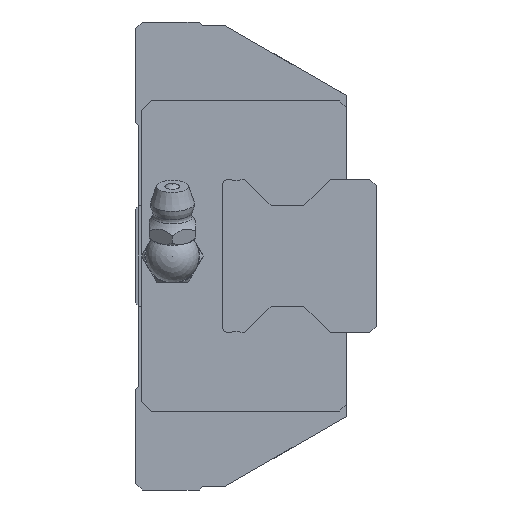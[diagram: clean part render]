
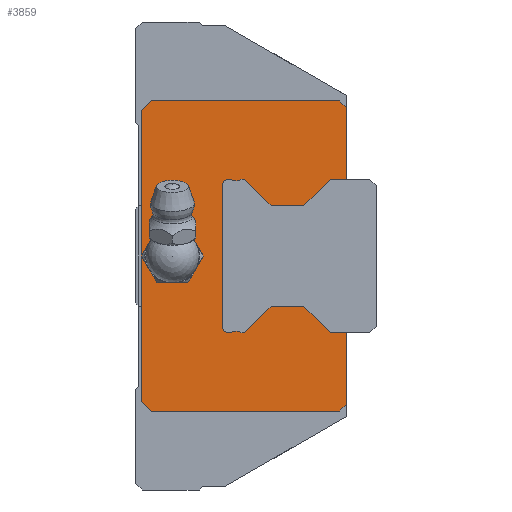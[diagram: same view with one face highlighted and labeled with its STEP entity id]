
A CAD part, left-side view. The second image highlights one B-rep face of the part: STEP entity #3859.
In plain terms, the highlighted planar face has unit normal (-1, 0, 0).
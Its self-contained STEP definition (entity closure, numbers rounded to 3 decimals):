
#183=CIRCLE('',#4177,3.);
#184=CIRCLE('',#4178,1.);
#185=CIRCLE('',#4179,1.);
#616=ORIENTED_EDGE('',*,*,#1542,.T.);
#617=ORIENTED_EDGE('',*,*,#1543,.T.);
#618=ORIENTED_EDGE('',*,*,#1533,.F.);
#619=ORIENTED_EDGE('',*,*,#1497,.F.);
#620=ORIENTED_EDGE('',*,*,#1493,.F.);
#621=ORIENTED_EDGE('',*,*,#1485,.F.);
#622=ORIENTED_EDGE('',*,*,#1520,.F.);
#623=ORIENTED_EDGE('',*,*,#1472,.F.);
#624=ORIENTED_EDGE('',*,*,#1507,.F.);
#625=ORIENTED_EDGE('',*,*,#1504,.F.);
#626=ORIENTED_EDGE('',*,*,#1535,.F.);
#627=ORIENTED_EDGE('',*,*,#1544,.T.);
#628=ORIENTED_EDGE('',*,*,#1545,.T.);
#629=ORIENTED_EDGE('',*,*,#1546,.T.);
#630=ORIENTED_EDGE('',*,*,#1547,.T.);
#631=ORIENTED_EDGE('',*,*,#1548,.T.);
#632=ORIENTED_EDGE('',*,*,#1549,.T.);
#633=ORIENTED_EDGE('',*,*,#1550,.T.);
#634=ORIENTED_EDGE('',*,*,#1551,.T.);
#635=ORIENTED_EDGE('',*,*,#1552,.T.);
#636=ORIENTED_EDGE('',*,*,#1553,.T.);
#637=ORIENTED_EDGE('',*,*,#1554,.T.);
#638=ORIENTED_EDGE('',*,*,#1555,.T.);
#639=ORIENTED_EDGE('',*,*,#1556,.T.);
#640=ORIENTED_EDGE('',*,*,#1557,.T.);
#641=ORIENTED_EDGE('',*,*,#1558,.T.);
#642=ORIENTED_EDGE('',*,*,#1559,.T.);
#1472=EDGE_CURVE('',#1967,#1968,#2333,.T.);
#1485=EDGE_CURVE('',#1979,#1980,#2346,.T.);
#1493=EDGE_CURVE('',#1980,#1986,#2353,.T.);
#1497=EDGE_CURVE('',#1986,#1988,#2357,.T.);
#1504=EDGE_CURVE('',#1993,#1994,#2364,.T.);
#1507=EDGE_CURVE('',#1994,#1967,#2367,.T.);
#1520=EDGE_CURVE('',#1968,#1979,#2375,.T.);
#1533=EDGE_CURVE('',#1988,#2005,#2386,.T.);
#1535=EDGE_CURVE('',#2012,#1993,#2388,.T.);
#1542=EDGE_CURVE('',#2018,#2018,#183,.T.);
#1543=EDGE_CURVE('',#2019,#2005,#2393,.T.);
#1544=EDGE_CURVE('',#2012,#2020,#2394,.T.);
#1545=EDGE_CURVE('',#2020,#2021,#2395,.T.);
#1546=EDGE_CURVE('',#2021,#2022,#2396,.T.);
#1547=EDGE_CURVE('',#2022,#2023,#2397,.T.);
#1548=EDGE_CURVE('',#2023,#2024,#2398,.T.);
#1549=EDGE_CURVE('',#2024,#2025,#2399,.T.);
#1550=EDGE_CURVE('',#2025,#2026,#2400,.T.);
#1551=EDGE_CURVE('',#2026,#2027,#184,.T.);
#1552=EDGE_CURVE('',#2027,#2028,#2401,.T.);
#1553=EDGE_CURVE('',#2028,#2029,#185,.T.);
#1554=EDGE_CURVE('',#2029,#2030,#2402,.T.);
#1555=EDGE_CURVE('',#2030,#2031,#2403,.T.);
#1556=EDGE_CURVE('',#2031,#2032,#2404,.T.);
#1557=EDGE_CURVE('',#2032,#2033,#2405,.T.);
#1558=EDGE_CURVE('',#2033,#2034,#2406,.T.);
#1559=EDGE_CURVE('',#2034,#2019,#2407,.T.);
#1967=VERTEX_POINT('',#5885);
#1968=VERTEX_POINT('',#5887);
#1979=VERTEX_POINT('',#5911);
#1980=VERTEX_POINT('',#5913);
#1986=VERTEX_POINT('',#5929);
#1988=VERTEX_POINT('',#5936);
#1993=VERTEX_POINT('',#5948);
#1994=VERTEX_POINT('',#5950);
#2005=VERTEX_POINT('',#5990);
#2012=VERTEX_POINT('',#6008);
#2018=VERTEX_POINT('',#6023);
#2019=VERTEX_POINT('',#6025);
#2020=VERTEX_POINT('',#6027);
#2021=VERTEX_POINT('',#6029);
#2022=VERTEX_POINT('',#6031);
#2023=VERTEX_POINT('',#6033);
#2024=VERTEX_POINT('',#6035);
#2025=VERTEX_POINT('',#6037);
#2026=VERTEX_POINT('',#6039);
#2027=VERTEX_POINT('',#6041);
#2028=VERTEX_POINT('',#6043);
#2029=VERTEX_POINT('',#6045);
#2030=VERTEX_POINT('',#6047);
#2031=VERTEX_POINT('',#6049);
#2032=VERTEX_POINT('',#6051);
#2033=VERTEX_POINT('',#6053);
#2034=VERTEX_POINT('',#6055);
#2333=LINE('',#5886,#2717);
#2346=LINE('',#5912,#2730);
#2353=LINE('',#5928,#2737);
#2357=LINE('',#5935,#2741);
#2364=LINE('',#5949,#2748);
#2367=LINE('',#5954,#2751);
#2375=LINE('',#5980,#2759);
#2386=LINE('',#6005,#2770);
#2388=LINE('',#6010,#2772);
#2393=LINE('',#6024,#2777);
#2394=LINE('',#6026,#2778);
#2395=LINE('',#6028,#2779);
#2396=LINE('',#6030,#2780);
#2397=LINE('',#6032,#2781);
#2398=LINE('',#6034,#2782);
#2399=LINE('',#6036,#2783);
#2400=LINE('',#6038,#2784);
#2401=LINE('',#6042,#2785);
#2402=LINE('',#6046,#2786);
#2403=LINE('',#6048,#2787);
#2404=LINE('',#6050,#2788);
#2405=LINE('',#6052,#2789);
#2406=LINE('',#6054,#2790);
#2407=LINE('',#6056,#2791);
#2717=VECTOR('',#4740,1000.);
#2730=VECTOR('',#4755,1000.);
#2737=VECTOR('',#4768,1000.);
#2741=VECTOR('',#4774,1000.);
#2748=VECTOR('',#4783,1000.);
#2751=VECTOR('',#4788,1000.);
#2759=VECTOR('',#4818,1000.);
#2770=VECTOR('',#4837,1000.);
#2772=VECTOR('',#4841,1000.);
#2777=VECTOR('',#4854,1000.);
#2778=VECTOR('',#4855,1000.);
#2779=VECTOR('',#4856,1000.);
#2780=VECTOR('',#4857,1000.);
#2781=VECTOR('',#4858,1000.);
#2782=VECTOR('',#4859,1000.);
#2783=VECTOR('',#4860,1000.);
#2784=VECTOR('',#4861,1000.);
#2785=VECTOR('',#4864,1000.);
#2786=VECTOR('',#4867,1000.);
#2787=VECTOR('',#4868,1000.);
#2788=VECTOR('',#4869,1000.);
#2789=VECTOR('',#4870,1000.);
#2790=VECTOR('',#4871,1000.);
#2791=VECTOR('',#4872,1000.);
#3077=EDGE_LOOP('',(#616));
#3078=EDGE_LOOP('',(#617,#618,#619,#620,#621,#622,#623,#624,#625,#626,#627,
#628,#629,#630,#631,#632,#633,#634,#635,#636,#637,#638,#639,#640,#641,#642));
#3404=FACE_BOUND('',#3077,.T.);
#3405=FACE_BOUND('',#3078,.T.);
#3674=PLANE('',#4176);
#3859=ADVANCED_FACE('',(#3404,#3405),#3674,.F.);
#4176=AXIS2_PLACEMENT_3D('',#6021,#4850,#4851);
#4177=AXIS2_PLACEMENT_3D('',#6022,#4852,#4853);
#4178=AXIS2_PLACEMENT_3D('',#6040,#4862,#4863);
#4179=AXIS2_PLACEMENT_3D('',#6044,#4865,#4866);
#4740=DIRECTION('',(0.,0.707,0.707));
#4755=DIRECTION('',(0.,-0.707,0.707));
#4768=DIRECTION('',(0.,-1.,0.));
#4774=DIRECTION('',(0.,-0.707,-0.707));
#4783=DIRECTION('',(0.,0.707,-0.707));
#4788=DIRECTION('',(0.,1.,0.));
#4818=DIRECTION('',(0.,0.,1.));
#4837=DIRECTION('',(0.,0.,-1.));
#4841=DIRECTION('',(0.,0.,-1.));
#4850=DIRECTION('',(1.,0.,0.));
#4851=DIRECTION('',(0.,0.,-1.));
#4852=DIRECTION('',(1.,0.,0.));
#4853=DIRECTION('',(0.,0.,-1.));
#4854=DIRECTION('',(0.,-1.,0.));
#4855=DIRECTION('',(0.,1.,0.));
#4856=DIRECTION('',(0.,0.707,0.707));
#4857=DIRECTION('',(0.,1.,0.));
#4858=DIRECTION('',(0.,0.707,-0.707));
#4859=DIRECTION('',(0.,1.,0.));
#4860=DIRECTION('',(0.,0.707,0.707));
#4861=DIRECTION('',(0.,1.,0.));
#4862=DIRECTION('',(1.,0.,0.));
#4863=DIRECTION('',(0.,0.,-1.));
#4864=DIRECTION('',(0.,0.,1.));
#4865=DIRECTION('',(1.,0.,0.));
#4866=DIRECTION('',(0.,0.,-1.));
#4867=DIRECTION('',(0.,-1.,0.));
#4868=DIRECTION('',(0.,-0.707,0.707));
#4869=DIRECTION('',(0.,-1.,0.));
#4870=DIRECTION('',(0.,-0.707,-0.707));
#4871=DIRECTION('',(0.,-1.,0.));
#4872=DIRECTION('',(0.,-0.707,0.707));
#5885=CARTESIAN_POINT('',(-47.55,29.2,-23.2));
#5886=CARTESIAN_POINT('',(-47.55,29.2,-23.2));
#5887=CARTESIAN_POINT('',(-47.55,30.7,-21.7));
#5911=CARTESIAN_POINT('',(-47.55,30.7,21.7));
#5912=CARTESIAN_POINT('',(-47.55,30.7,21.7));
#5913=CARTESIAN_POINT('',(-47.55,29.2,23.2));
#5928=CARTESIAN_POINT('',(-47.55,29.2,23.2));
#5929=CARTESIAN_POINT('',(-47.55,1.,23.2));
#5935=CARTESIAN_POINT('',(-47.55,1.,23.2));
#5936=CARTESIAN_POINT('',(-47.55,0.,22.2));
#5948=CARTESIAN_POINT('',(-47.55,0.,-22.2));
#5949=CARTESIAN_POINT('',(-47.55,0.,-22.2));
#5950=CARTESIAN_POINT('',(-47.55,1.,-23.2));
#5954=CARTESIAN_POINT('',(-47.55,1.,-23.2));
#5980=CARTESIAN_POINT('',(-47.55,30.7,-21.7));
#5990=CARTESIAN_POINT('',(-47.55,0.,11.5));
#6005=CARTESIAN_POINT('',(-47.55,0.,22.2));
#6008=CARTESIAN_POINT('',(-47.55,0.,-11.5));
#6010=CARTESIAN_POINT('',(-47.55,0.,22.2));
#6021=CARTESIAN_POINT('',(-47.55,0.,0.));
#6022=CARTESIAN_POINT('',(-47.55,26.,0.));
#6023=CARTESIAN_POINT('',(-47.55,26.,-3.));
#6024=CARTESIAN_POINT('',(-47.55,2.35,11.5));
#6025=CARTESIAN_POINT('',(-47.55,2.35,11.5));
#6026=CARTESIAN_POINT('',(-47.55,-3.5,-11.5));
#6027=CARTESIAN_POINT('',(-47.55,2.35,-11.5));
#6028=CARTESIAN_POINT('',(-47.55,2.35,-11.5));
#6029=CARTESIAN_POINT('',(-47.55,6.35,-7.5));
#6030=CARTESIAN_POINT('',(-47.55,6.35,-7.5));
#6031=CARTESIAN_POINT('',(-47.55,11.25,-7.5));
#6032=CARTESIAN_POINT('',(-47.55,11.25,-7.5));
#6033=CARTESIAN_POINT('',(-47.55,15.25,-11.5));
#6034=CARTESIAN_POINT('',(-47.55,15.25,-11.5));
#6035=CARTESIAN_POINT('',(-47.55,15.76,-11.5));
#6036=CARTESIAN_POINT('',(-47.55,15.76,-11.5));
#6037=CARTESIAN_POINT('',(-47.55,16.01,-11.25));
#6038=CARTESIAN_POINT('',(-47.55,16.01,-11.25));
#6039=CARTESIAN_POINT('',(-47.55,16.839,-11.25));
#6040=CARTESIAN_POINT('',(-47.55,17.5,-10.5));
#6041=CARTESIAN_POINT('',(-47.55,18.5,-10.5));
#6042=CARTESIAN_POINT('',(-47.55,18.5,-10.5));
#6043=CARTESIAN_POINT('',(-47.55,18.5,10.5));
#6044=CARTESIAN_POINT('',(-47.55,17.5,10.5));
#6045=CARTESIAN_POINT('',(-47.55,16.839,11.25));
#6046=CARTESIAN_POINT('',(-47.55,16.839,11.25));
#6047=CARTESIAN_POINT('',(-47.55,16.01,11.25));
#6048=CARTESIAN_POINT('',(-47.55,16.01,11.25));
#6049=CARTESIAN_POINT('',(-47.55,15.76,11.5));
#6050=CARTESIAN_POINT('',(-47.55,15.76,11.5));
#6051=CARTESIAN_POINT('',(-47.55,15.25,11.5));
#6052=CARTESIAN_POINT('',(-47.55,15.25,11.5));
#6053=CARTESIAN_POINT('',(-47.55,11.25,7.5));
#6054=CARTESIAN_POINT('',(-47.55,11.25,7.5));
#6055=CARTESIAN_POINT('',(-47.55,6.35,7.5));
#6056=CARTESIAN_POINT('',(-47.55,6.35,7.5));
